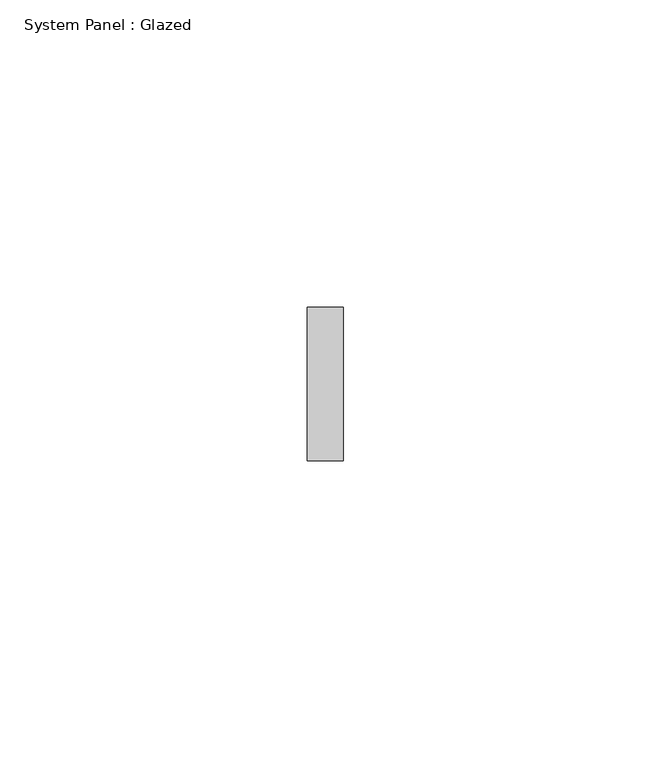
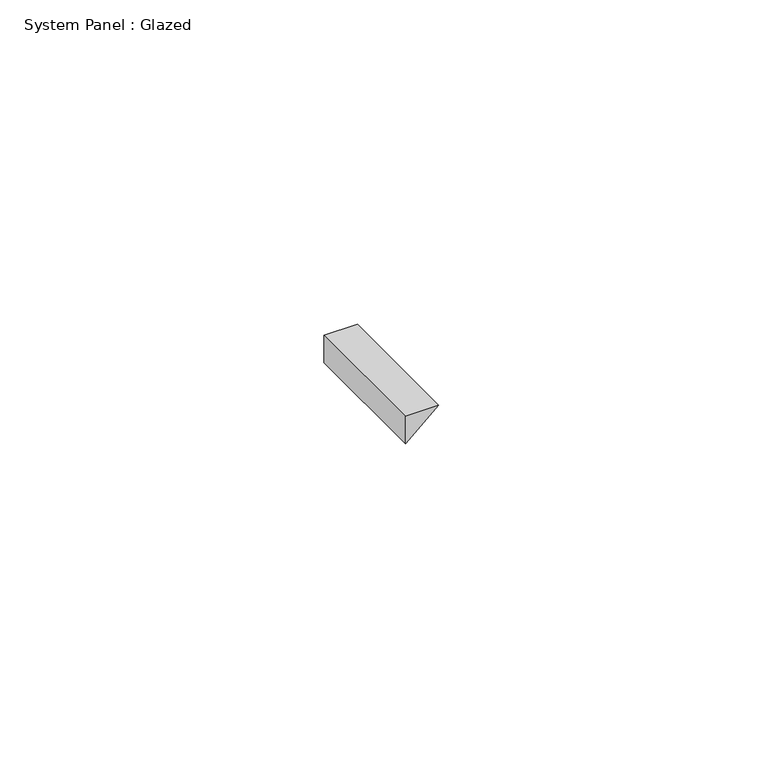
"""IFC4 building model written with IfcOpenShell, lengths in millimetres: plate geometry, System Panel : Glazed."""

import ifcopenshell
import ifcopenshell.guid

model = None  # the IFC model being written
_history = None  # IfcOwnerHistory: only IFC2X3 demands one
_inside = {}  # id of a spatial element -> (the spatial element, [elements in it])
_under = {}  # id of a project, library or spatial element -> (it, [spatial elements below it])
_declared = {}  # id of a project -> (the project, [libraries it declares])
_typed = {}  # id of a type object -> (the type object, [elements of that type])
_made_of = {}  # id of a material, layer set ... -> (it, [elements and type objects made of it])


def new_model(schema):
    """Start an empty IFC model of exactly this schema.

    Asked for "IFC4X3", IfcOpenShell would pick the latest addendum, in which some entities
    have other attributes; the version numbers below select the first issue.
    IFC2X3 requires an IfcOwnerHistory on every rooted entity: one is made here for all.
    """
    global model, _history
    if schema == "IFC4X3":
        model = ifcopenshell.file(schema_version=(4, 3, 0, 0))
    else:
        model = ifcopenshell.file(schema=schema)
    _inside.clear()
    _under.clear()
    _declared.clear()
    _typed.clear()
    _made_of.clear()
    _history = None
    if model.schema == "IFC2X3":
        org = make("IfcOrganization", Name="unknown")
        user = make(
            "IfcPersonAndOrganization",
            ThePerson=make("IfcPerson", FamilyName="unknown"),
            TheOrganization=org,
        )
        app = make(
            "IfcApplication",
            ApplicationDeveloper=org,
            Version="unknown",
            ApplicationFullName="unknown",
            ApplicationIdentifier="unknown",
        )
        _history = make(
            "IfcOwnerHistory",
            OwningUser=user,
            OwningApplication=app,
            ChangeAction="ADDED",
            CreationDate=0,
        )
    return model


def make(cls, **values):
    """One entity of the class cls with the attributes given. An attribute that is None is left unset."""
    return model.create_entity(
        cls, **{name: value for name, value in values.items() if value is not None}
    )


def rooted(cls, **values):
    """An entity with a GlobalId (a new one), such as an element, a storey or a relation."""
    return make(cls, GlobalId=ifcopenshell.guid.new(), OwnerHistory=_history, **values)


def si_unit(unit_type, name, prefix=None):
    """IfcSIUnit, for example si_unit("LENGTHUNIT", "METRE", prefix="MILLI")."""
    return make("IfcSIUnit", UnitType=unit_type, Prefix=prefix, Name=name)


def assignment(units):
    """IfcUnitAssignment: the units of a project."""
    return None if units is None else make("IfcUnitAssignment", Units=units)


def point(xyz):
    """IfcCartesianPoint."""
    return None if xyz is None else make("IfcCartesianPoint", Coordinates=xyz)


def direction(xyz):
    """IfcDirection."""
    return None if xyz is None else make("IfcDirection", DirectionRatios=xyz)


def frame(location, z_axis=None, x_axis=None):
    """IfcAxis2Placement3D, a coordinate frame: its origin and axes. An axis left out is left unset."""
    return make(
        "IfcAxis2Placement3D",
        Location=point(location),
        Axis=direction(z_axis),
        RefDirection=direction(x_axis),
    )


def origin():
    """The frame at (0, 0, 0) with its axes left unset."""
    return frame((0.0, 0.0, 0.0))


def place(relative_to, where):
    """IfcLocalPlacement: puts the frame where relative to a parent placement (None: the world)."""
    return make(
        "IfcLocalPlacement", PlacementRelTo=relative_to, RelativePlacement=where
    )


def context(
    kind, dimensions, precision=None, world=None, true_north=None, identifier=None
):
    """IfcGeometricRepresentationContext, for example the 3D "Model" context."""
    return make(
        "IfcGeometricRepresentationContext",
        ContextIdentifier=identifier,
        ContextType=kind,
        CoordinateSpaceDimension=dimensions,
        Precision=precision,
        WorldCoordinateSystem=world,
        TrueNorth=true_north,
    )


def project(units=None, contexts=None):
    """IfcProject with its units and contexts."""
    return rooted(
        "IfcProject",
        Name="project",
        RepresentationContexts=contexts,
        UnitsInContext=assignment(units),
    )


def spatial(cls, under=None, at=None, **own):
    """A site, building, storey or space (cls), placed at a placement, below another one or the project."""
    s = rooted(cls, ObjectPlacement=at, **own)
    if under is not None:
        _under.setdefault(under.id(), (under, []))[1].append(s)
    return s


def polyline(points):
    """IfcPolyline through the points."""
    return make("IfcPolyline", Points=[point(p) for p in points])


def outline(outer, holes=None, kind="AREA"):
    """IfcArbitraryClosedProfileDef: a profile drawn as a closed curve; with holes, ...WithVoids."""
    if holes is None:
        return make("IfcArbitraryClosedProfileDef", ProfileType=kind, OuterCurve=outer)
    return make(
        "IfcArbitraryProfileDefWithVoids",
        ProfileType=kind,
        OuterCurve=outer,
        InnerCurves=holes,
    )


def extrude(swept, where, along, depth):
    """IfcExtrudedAreaSolid: the profile swept, set in the frame where, extruded along a direction by depth."""
    return make(
        "IfcExtrudedAreaSolid",
        SweptArea=swept,
        Position=where,
        ExtrudedDirection=direction(along),
        Depth=depth,
    )


def shape(context_of_items, identifier, shape_type, items):
    """IfcShapeRepresentation: the items that make up one representation, for example the "Body"."""
    return make(
        "IfcShapeRepresentation",
        ContextOfItems=context_of_items,
        RepresentationIdentifier=identifier,
        RepresentationType=shape_type,
        Items=items,
    )


def source(mapping_origin, context_of_items, identifier, shape_type, items):
    """IfcRepresentationMap: a shape defined once, which mapped items show again and again."""
    return make(
        "IfcRepresentationMap",
        MappingOrigin=mapping_origin,
        MappedRepresentation=shape(context_of_items, identifier, shape_type, items),
    )


def transform(
    local_origin,
    x_axis=None,
    y_axis=None,
    z_axis=None,
    scale=None,
    scale2=None,
    scale3=None,
    uniform=True,
):
    """IfcCartesianTransformationOperator3D, or its non-uniform kind. x_axis, y_axis, z_axis: its Axis1, 2, 3."""
    if uniform:
        return make(
            "IfcCartesianTransformationOperator3D",
            Axis1=direction(x_axis),
            Axis2=direction(y_axis),
            LocalOrigin=point(local_origin),
            Scale=scale,
            Axis3=direction(z_axis),
        )
    return make(
        "IfcCartesianTransformationOperator3DnonUniform",
        Axis1=direction(x_axis),
        Axis2=direction(y_axis),
        LocalOrigin=point(local_origin),
        Scale=scale,
        Axis3=direction(z_axis),
        Scale2=scale2,
        Scale3=scale3,
    )


def mapped(mapping_source, mapping_target):
    """IfcMappedItem: shows the shape of a source again, moved by a transform."""
    return make(
        "IfcMappedItem", MappingSource=mapping_source, MappingTarget=mapping_target
    )


def made_of(thing, what):
    """Note that an element or type object is made of a material, layer set ...; save() writes the relation."""
    if what is not None:
        _made_of.setdefault(what.id(), (what, []))[1].append(thing)
    return thing


def element(
    cls,
    number,
    at=None,
    inside=None,
    cuts=None,
    type_object=None,
    material=None,
    context=None,
    identifier="Body",
    shape_type=None,
    held_by="IfcProductDefinitionShape",
    body=None,
    shapes=None,
    **own,
):
    """One element of the class cls, such as IfcWall. Its Tag is "e" and its number.

    at: its placement. inside: the storey or other place that contains it. cuts: it is an
    opening in that element (IfcRelVoidsElement). A single representation is given by context,
    identifier, shape_type and body (its items); several are given by shapes. held_by: the class
    of the entity that holds the representations. save() writes the other relations.
    """
    e = rooted(cls, Tag="e%d" % number, ObjectPlacement=at, **own)
    if body is not None:
        shapes = [shape(context, identifier, shape_type, body)]
    if shapes is not None:
        e.Representation = make(held_by, Representations=shapes)
    if inside is not None:
        _inside.setdefault(inside.id(), (inside, []))[1].append(e)
    if cuts is not None:
        rooted(
            "IfcRelVoidsElement", RelatingBuildingElement=cuts, RelatedOpeningElement=e
        )
    if type_object is not None:
        _typed.setdefault(type_object.id(), (type_object, []))[1].append(e)
    return made_of(e, material)


def aggregate(whole, parts):
    """IfcRelAggregates: a whole, such as a stair, and the parts it consists of."""
    return rooted("IfcRelAggregates", RelatingObject=whole, RelatedObjects=parts)


def save(model, path):
    """Write the relations noted so far, then the file.

    IfcRelAggregates (storeys below a building ...), IfcRelContainedInSpatialStructure (elements
    in a storey), IfcRelDefinesByType, IfcRelAssociatesMaterial and IfcRelDeclares: one each for
    every whole, place, type object, material and project.
    """
    for whole, parts in _under.values():
        aggregate(whole, parts)
    for where, things in _inside.values():
        rooted(
            "IfcRelContainedInSpatialStructure",
            RelatedElements=things,
            RelatingStructure=where,
        )
    for kind, things in _typed.values():
        rooted("IfcRelDefinesByType", RelatedObjects=things, RelatingType=kind)
    for what, things in _made_of.values():
        rooted("IfcRelAssociatesMaterial", RelatedObjects=things, RelatingMaterial=what)
    for by, libraries in _declared.values():
        rooted("IfcRelDeclares", RelatingContext=by, RelatedDefinitions=libraries)
    model.write(path)


def system_panel_glazed_b5b044c5(model_context):
    return source(origin(), model_context, "Body", "SweptSolid", [
        extrude(outline(polyline([(5.175791, -2.9516667), (0.0, -2.9516667), (5.175791, 2.9516667), (5.175791, -2.9516667)])), frame((0.0, 24.5, 0.0), z_axis=(0.0, 1.0, 0.0), x_axis=(0.0, 0.0, 1.0)), (0.0, 0.0, 1.0), 25.0),
    ])


if __name__ == "__main__":
    model = new_model("IFC4")
    model_context = context("Model", 3, world=origin())
    ifc_project = project(units=[si_unit("LENGTHUNIT", "METRE", prefix="MILLI")], contexts=[model_context])
    site = spatial("IfcSite", under=ifc_project)
    building = spatial("IfcBuilding", under=site)
    placement = place(None, origin())
    system_panel_glazed_shape = system_panel_glazed_b5b044c5(model_context)
    element("IfcPlate", 1, ObjectType="System Panel : Glazed", at=placement, inside=building, context=model_context, shape_type="MappedRepresentation", body=[
        mapped(system_panel_glazed_shape, transform((0.0, 0.0, 0.0), x_axis=(1.0, 0.0, 0.0), y_axis=(0.0, 1.0, 0.0), z_axis=(0.0, 0.0, 1.0))),
    ])
    save(model, "model.ifc")
